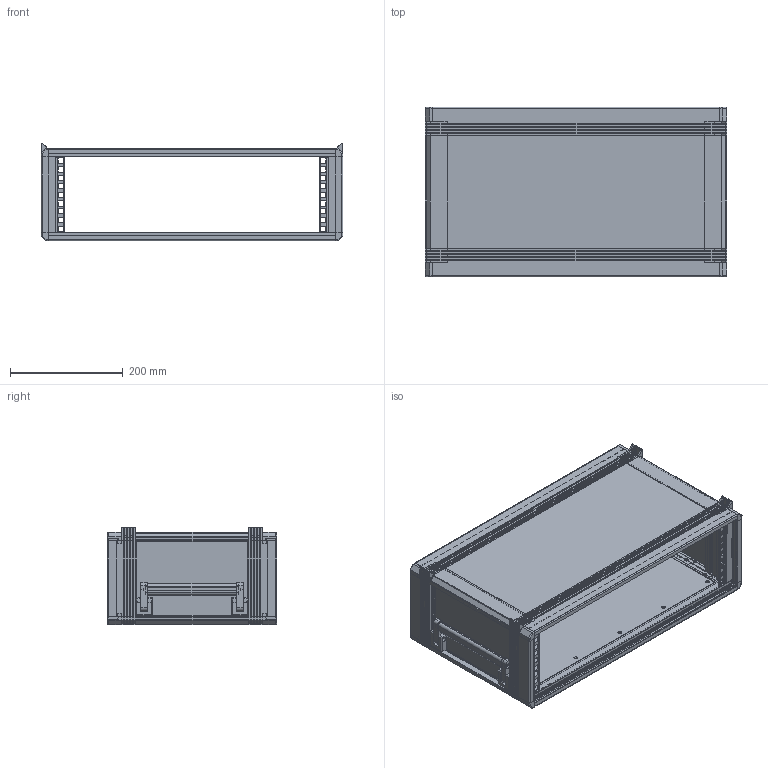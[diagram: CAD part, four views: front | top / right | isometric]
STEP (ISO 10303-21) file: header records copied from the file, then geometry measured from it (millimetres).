
FILE_DESCRIPTION (( 'STEP AP214' ), '1' );
FILE_NAME ('01330084.STEP', '2026-03-28T01:18:52', ( '' ), ( '' ), 'SwSTEP 2.0', 'SolidWorks 2013', '' );
FILE_SCHEMA (( 'AUTOMOTIVE_DESIGN' ));
Length unit declared in the file: millimetre
Products named in the file (32): 3U机箱外箱连接面板右竖梁; 外箱转动把手配件4; 3U儂眊俋眊ヶ旳褽; 俋眊塹褒蟀諉璃 (1); 外箱转动把手配件2右; 外箱转动把手配件2左; 俋眊塹褒蟀諉璃 (2); 3U84HP儂眊俋眊筵褽; 俋眊階裔盓褐殤; 外箱转动把手配件1; 3U儂眊俋眊耜褽; 3U机箱外箱侧板塞柱; 俋眊盓褐殤4; 3U儂眊俋眊綴旳褽; 外箱转动把手配件3右; 3U机箱外箱连接面板左竖梁; GB／T819．1-2000十字槽沉头螺钉M3×6; 俋盓褐殤3; 俋眊盓褐殤1; 傍啣; 俋眊盓褐殤2; 3U84HP儂眊俋眊裔啣; 俋眊盓褐殤5; 01330084; 3U儂眊俋眊ヶ旳褽 ㄗ2ㄘ; 3U儂眊俋眊綴旳褽 ㄗ2ㄘ; 外箱转动把手部分组装; 3U儂眊俋眊蟀諉沭; 外箱转动把手配件3左; I倰耜啣; 俋眊菁釱盓褐殤; 3U儂眊俋眊假蚾沭
Assembly tree (87 placements, depth 3):
  01330084
    3U儂眊俋眊ヶ旳褽
    3U儂眊俋眊綴旳褽
    3U机箱外箱连接面板右竖梁  x2
    3U机箱外箱连接面板左竖梁  x2
    3U儂眊俋眊蟀諉沭  x4
    3U儂眊俋眊耜褽  x4
    3U84HP儂眊俋眊筵褽  x4
    3U84HP儂眊俋眊裔啣  x2
    外箱转动把手配件3右  x2
    外箱转动把手配件3左  x2
    外箱转动把手部分组装  x2
      外箱转动把手配件1
      外箱转动把手配件2右
      外箱转动把手配件2左
      外箱转动把手配件4
    俋眊塹褒蟀諉璃 (1)  x4
    俋眊塹褒蟀諉璃 (2)  x4
    俋眊階裔盓褐殤  x4
      俋眊盓褐殤1
      俋盓褐殤3
      俋眊盓褐殤2
    俋眊菁釱盓褐殤  x4
      俋眊盓褐殤5
      俋盓褐殤3
      俋眊盓褐殤4
    3U儂眊俋眊假蚾沭  x6
    傍啣  x2
    I倰耜啣  x2
    3U机箱外箱侧板塞柱
    3U儂眊俋眊ヶ旳褽 ㄗ2ㄘ
    3U儂眊俋眊綴旳褽 ㄗ2ㄘ
    GB／T819．1-2000十字槽沉头螺钉M3×6  x21
Bounding box: 534 x 300 x 173.48 mm (x, y, z)
Volume: 2337123.2 mm3; surface area: 2154634.5 mm2
Topology: 104 solids, 104 shells, 5310 faces, 14564 edges, 9361 vertices
Faces by surface type: plane 3566, cylinder 1332, cone 370, torus 42
Entity records: 57661 total; most frequent: CARTESIAN_POINT 10485, ORIENTED_EDGE 9742, DIRECTION 9253, EDGE_CURVE 4871, VECTOR 3683, LINE 3683, VERTEX_POINT 3181, AXIS2_PLACEMENT_3D 2785
